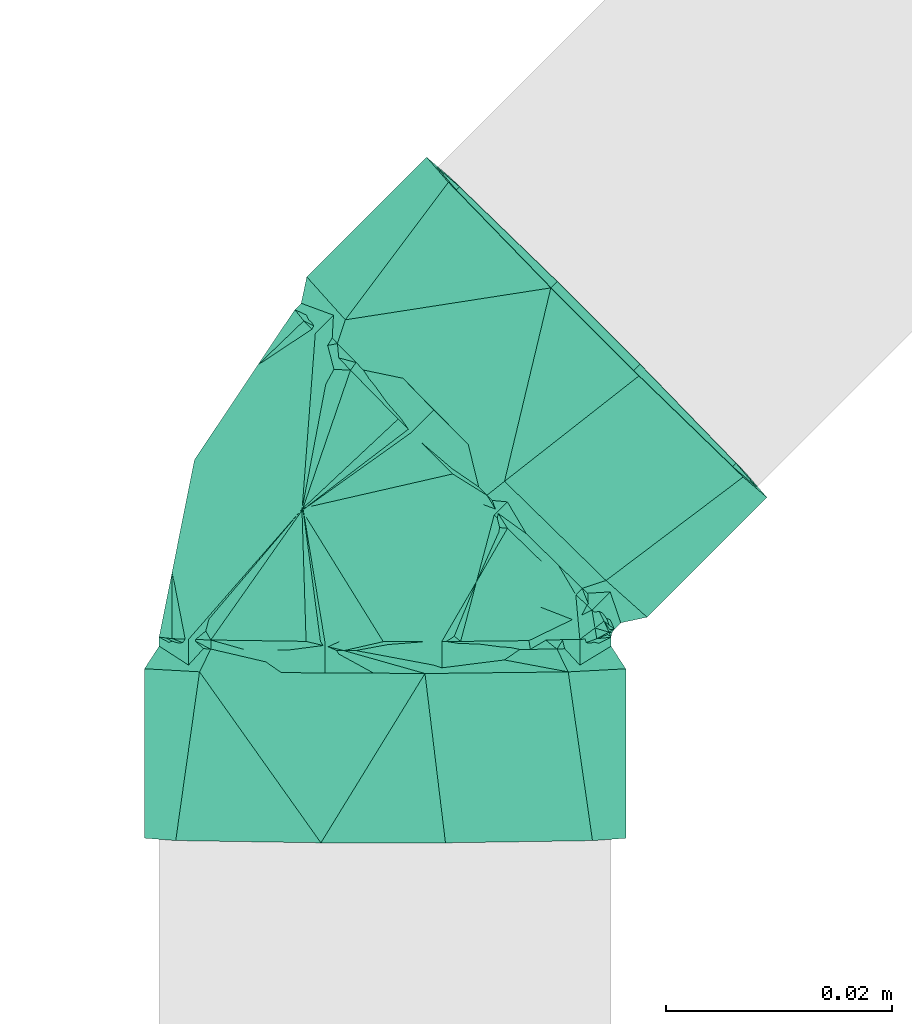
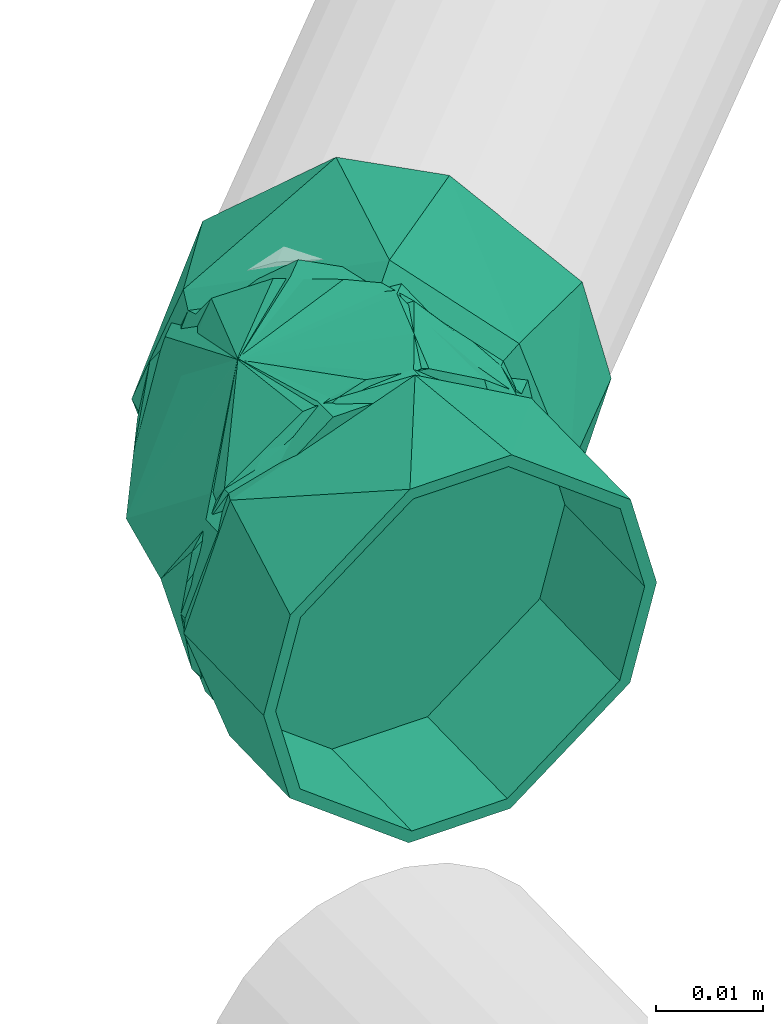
# One storey, part 330 of 589: 1 flow fitting.
"""IFC2X3 building model written with IfcOpenShell, lengths in millimetres."""

from ifc_helpers import new_model, entity, si_unit, converted_unit, derived_unit, direction, frame, origin, place, context, subcontext, project, spatial, faceted_brep, source, transform, mapped, material, type_object, type_shapes, element, save


model = new_model("IFC2X3")

# Units and contexts
model_context = context("Model", 3, precision=0.01, world=origin(), true_north=direction((6.123031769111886e-17, 1.0)))
body_context = subcontext(model_context, "Body", "Model", "MODEL_VIEW")
ifc_project = project(units=[si_unit("LENGTHUNIT", "METRE", prefix="MILLI"), si_unit("AREAUNIT", "SQUARE_METRE"), si_unit("VOLUMEUNIT", "CUBIC_METRE"), converted_unit("PLANEANGLEUNIT", "DEGREE", entity("IfcRatioMeasure", 0.017453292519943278), si_unit("PLANEANGLEUNIT", "RADIAN"), dimensions=[0, 0, 0, 0, 0, 0, 0]), si_unit("MASSUNIT", "GRAM", prefix="KILO"), derived_unit("MASSDENSITYUNIT", [(si_unit("MASSUNIT", "GRAM", prefix="KILO"), 1), (si_unit("LENGTHUNIT", "METRE"), -3)]), derived_unit("IONCONCENTRATIONUNIT", [(si_unit("MASSUNIT", "GRAM", prefix="KILO"), 1), (si_unit("LENGTHUNIT", "METRE"), -3)]), derived_unit("MOMENTOFINERTIAUNIT", [(si_unit("LENGTHUNIT", "METRE"), 4)]), si_unit("TIMEUNIT", "SECOND"), si_unit("FREQUENCYUNIT", "HERTZ"), si_unit("THERMODYNAMICTEMPERATUREUNIT", "DEGREE_CELSIUS"), derived_unit("THERMALTRANSMITTANCEUNIT", [(si_unit("MASSUNIT", "GRAM", prefix="KILO"), 1), (si_unit("THERMODYNAMICTEMPERATUREUNIT", "KELVIN"), -1), (si_unit("TIMEUNIT", "SECOND"), -3)]), derived_unit("THERMALCONDUCTANCEUNIT", [(si_unit("MASSUNIT", "GRAM", prefix="KILO"), 1), (si_unit("THERMODYNAMICTEMPERATUREUNIT", "KELVIN"), -1), (si_unit("TIMEUNIT", "SECOND"), -3), (si_unit("LENGTHUNIT", "METRE"), 1)]), derived_unit("VOLUMETRICFLOWRATEUNIT", [(si_unit("LENGTHUNIT", "METRE"), 3), (si_unit("TIMEUNIT", "SECOND"), -1)]), derived_unit("MASSFLOWRATEUNIT", [(si_unit("MASSUNIT", "GRAM", prefix="KILO"), 1), (si_unit("TIMEUNIT", "SECOND"), -1)]), derived_unit("ROTATIONALFREQUENCYUNIT", [(si_unit("TIMEUNIT", "SECOND"), -1)]), si_unit("ELECTRICCURRENTUNIT", "AMPERE"), si_unit("ELECTRICVOLTAGEUNIT", "VOLT"), si_unit("POWERUNIT", "WATT"), si_unit("FORCEUNIT", "NEWTON", prefix="KILO"), si_unit("ILLUMINANCEUNIT", "LUX"), si_unit("LUMINOUSFLUXUNIT", "LUMEN"), si_unit("LUMINOUSINTENSITYUNIT", "CANDELA"), derived_unit("USERDEFINED", [(si_unit("MASSUNIT", "GRAM", prefix="KILO"), -1), (si_unit("LENGTHUNIT", "METRE"), -2), (si_unit("TIMEUNIT", "SECOND"), 3), (si_unit("LUMINOUSFLUXUNIT", "LUMEN"), 1)]), derived_unit("USERDEFINED", [(si_unit("MASSUNIT", "GRAM", prefix="KILO"), 1), (si_unit("TIMEUNIT", "SECOND"), -3), (si_unit("LENGTHUNIT", "METRE"), 3), (si_unit("ELECTRICCURRENTUNIT", "AMPERE"), -2)]), derived_unit("SOUNDPOWERUNIT", [(si_unit("MASSUNIT", "GRAM", prefix="KILO"), 1), (si_unit("TIMEUNIT", "SECOND"), -3), (si_unit("LENGTHUNIT", "METRE"), 2)]), derived_unit("SOUNDPRESSUREUNIT", [(si_unit("MASSUNIT", "GRAM", prefix="KILO"), 1), (si_unit("LENGTHUNIT", "METRE"), -1), (si_unit("TIMEUNIT", "SECOND"), -2)]), derived_unit("LINEARVELOCITYUNIT", [(si_unit("LENGTHUNIT", "METRE"), 1), (si_unit("TIMEUNIT", "SECOND"), -1)]), si_unit("PRESSUREUNIT", "PASCAL"), derived_unit("USERDEFINED", [(si_unit("MASSUNIT", "GRAM", prefix="KILO"), 1), (si_unit("LENGTHUNIT", "METRE"), -2), (si_unit("TIMEUNIT", "SECOND"), -2)]), derived_unit("LINEARFORCEUNIT", [(si_unit("MASSUNIT", "GRAM", prefix="KILO"), 1), (si_unit("TIMEUNIT", "SECOND"), -2)]), derived_unit("PLANARFORCEUNIT", [(si_unit("MASSUNIT", "GRAM", prefix="KILO"), 1), (si_unit("LENGTHUNIT", "METRE"), -1), (si_unit("TIMEUNIT", "SECOND"), -2)]), derived_unit("SPECIFICHEATCAPACITYUNIT", [(si_unit("THERMODYNAMICTEMPERATUREUNIT", "KELVIN"), -1), (si_unit("LENGTHUNIT", "METRE"), 2), (si_unit("TIMEUNIT", "SECOND"), -2)]), derived_unit("HEATINGVALUEUNIT", [(si_unit("LENGTHUNIT", "METRE"), 2), (si_unit("TIMEUNIT", "SECOND"), -2)]), derived_unit("VAPORPERMEABILITYUNIT", [(si_unit("LENGTHUNIT", "METRE"), -1), (si_unit("TIMEUNIT", "SECOND"), 1)]), derived_unit("DYNAMICVISCOSITYUNIT", [(si_unit("MASSUNIT", "GRAM", prefix="KILO"), 1), (si_unit("TIMEUNIT", "SECOND"), -1), (si_unit("LENGTHUNIT", "METRE"), -1)]), derived_unit("THERMALEXPANSIONCOEFFICIENTUNIT", [(si_unit("THERMODYNAMICTEMPERATUREUNIT", "KELVIN"), -1)]), derived_unit("MODULUSOFELASTICITYUNIT", [(si_unit("MASSUNIT", "GRAM", prefix="KILO"), 1), (si_unit("LENGTHUNIT", "METRE"), -1), (si_unit("TIMEUNIT", "SECOND"), -2)]), derived_unit("ISOTHERMALMOISTURECAPACITYUNIT", [(si_unit("LENGTHUNIT", "METRE"), 3), (si_unit("MASSUNIT", "GRAM", prefix="KILO"), -1)]), derived_unit("MOISTUREDIFFUSIVITYUNIT", [(si_unit("TIMEUNIT", "SECOND"), -1), (si_unit("LENGTHUNIT", "METRE"), 2)])], contexts=[model_context])

# Site, building, storey
site_placement = place(None, origin())
site = spatial("IfcSite", under=ifc_project, at=site_placement, Name="Default", CompositionType="ELEMENT")
building_placement = place(site_placement, origin())
building = spatial("IfcBuilding", under=site, at=building_placement, CompositionType="ELEMENT")
storey_placement = place(building_placement, frame((0.0, 0.0, 100.0)))
storey = spatial("IfcBuildingStorey", under=building, at=storey_placement, Name="TÉRREO", CompositionType="ELEMENT", Elevation=100.0)

# Flow fitting
ifc_material = material(Name="PVC Série Normal")
pipe_fitting_type = type_object("IfcPipeFittingType", Name="PVC Esgoto_Joelho 45_90_Rodrigo MEP:a. Série Normal", PredefinedType="NOTDEFINED", material=ifc_material)
shared_shape = source(origin(), body_context, "Body", "Brep", [
    faceted_brep([(20.291797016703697, -7.993282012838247, 0.0), (18.397234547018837, -6.098470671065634, 10.0), (9.810603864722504, 2.489287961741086, 19.318516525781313), (2.4905765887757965, 9.810276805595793, 19.318516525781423), (-6.0960540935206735, 18.39803543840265, 10.0), (-7.990616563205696, 20.29284678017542, 0.0), (-6.0960540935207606, 18.398035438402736, -10.0), (2.49057658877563, 9.81027680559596, -19.31851652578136), (9.810603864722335, 2.4892879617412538, -19.318516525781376), (18.397234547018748, -6.098470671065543, -10.0), (-6.010587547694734, 22.272615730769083, 0.0), (-4.116025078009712, 20.377804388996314, 10.0), (4.470605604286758, 11.790045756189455, 19.318516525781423), (11.790632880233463, 4.46905691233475, 19.318516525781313), (20.3772635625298, -4.118701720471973, 10.0), (22.271826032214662, -6.013513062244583, 0.0), (20.37726356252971, -4.11870172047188, -10.0), (11.790632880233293, 4.469056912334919, -19.318516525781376), (4.4706056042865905, 11.790045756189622, -19.31851652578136), (-4.116025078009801, 20.3778043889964, -10.0)], [[[0, 1, 2, 3, 4, 5, 6, 7, 8, 9]], [[10, 11, 12, 13, 14, 15, 16, 17, 18, 19]], [[0, 15, 14, 1]], [[1, 14, 13, 2]], [[13, 12, 3, 2]], [[3, 12, 11, 4]], [[4, 11, 10, 5]], [[5, 10, 19, 6]], [[6, 19, 18, 7]], [[18, 17, 8, 7]], [[8, 17, 16, 9]], [[9, 16, 15, 0]]]),
    faceted_brep([(-11.497676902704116, -17.320508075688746, -10.0), (-11.497676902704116, -20.0, 0.0), (-11.497676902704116, -17.320508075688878, 10.0), (-11.497676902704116, -5.176380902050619, 19.318516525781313), (-11.497676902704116, 5.1763809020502, 19.318516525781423), (-11.497676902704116, 17.320508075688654, 10.0), (-11.497676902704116, 20.0, 0.0), (-11.497676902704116, 17.320508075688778, -10.0), (-11.497676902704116, 5.17638090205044, -19.31851652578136), (-11.497676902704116, -5.176380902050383, -19.318516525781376), (-8.697676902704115, 5.17638090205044, -19.31851652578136), (-8.697676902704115, 17.320508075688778, -10.0), (-8.697676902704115, 20.0, 0.0), (-8.697676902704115, 17.320508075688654, 10.0), (-8.697676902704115, 5.1763809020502, 19.318516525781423), (-8.697676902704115, -5.176380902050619, 19.318516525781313), (-8.697676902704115, -17.320508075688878, 10.0), (-8.697676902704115, -20.0, 0.0), (-8.697676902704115, -17.320508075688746, -10.0), (-8.697676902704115, -5.176380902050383, -19.318516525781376)], [[[0, 1, 2, 3, 4, 5, 6, 7, 8, 9]], [[10, 11, 12, 13, 14, 15, 16, 17, 18, 19]], [[1, 17, 16, 2]], [[2, 16, 15, 3]], [[15, 14, 4, 3]], [[4, 14, 13, 5]], [[5, 13, 12, 6]], [[6, 12, 11, 7]], [[7, 11, 10, 8]], [[10, 19, 9, 8]], [[9, 19, 18, 0]], [[0, 18, 17, 1]]]),
    faceted_brep([(-26.49767690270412, -5.512845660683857, -20.574220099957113), (-26.49767690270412, -5.176380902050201, -19.318516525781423), (-26.49767690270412, 5.176380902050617, -19.318516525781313), (-26.49767690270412, -18.44634110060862, -10.649999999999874), (-26.49767690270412, 5.512845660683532, -20.574220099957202), (-26.49767690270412, -17.320508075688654, -10.0), (-26.49767690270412, -20.0, 0.0), (-26.49767690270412, -21.3, 0.0), (-26.49767690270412, -17.32050807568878, 10.0), (-26.49767690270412, -18.446341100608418, 10.65000000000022), (-26.49767690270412, -5.176380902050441, 19.31851652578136), (-26.49767690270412, -5.512845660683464, 20.574220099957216), (-26.49767690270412, 5.176380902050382, 19.318516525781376), (-26.49767690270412, 5.512845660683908, 20.5742200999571), (-26.49767690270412, 17.320508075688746, 10.0), (-26.49767690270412, 18.446341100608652, 10.649999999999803), (-26.49767690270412, 21.3, 0.0), (-26.49767690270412, 20.0, 0.0), (-26.49767690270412, 18.44634110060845, -10.650000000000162), (-26.49767690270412, 17.320508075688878, -10.0), (-11.497676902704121, 17.320508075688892, -10.0), (-11.497676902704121, 20.0, 0.0), (-11.497676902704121, 5.17638090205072, -19.318516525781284), (-11.497676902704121, -5.176380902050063, -19.31851652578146), (-11.497676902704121, -17.320508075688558, -10.0), (-11.497676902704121, -20.0, 0.0), (-11.497676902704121, -17.320508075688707, 10.0), (-11.497676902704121, -5.176380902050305, 19.318516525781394), (-11.497676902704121, 5.176380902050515, 19.318516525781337), (-11.497676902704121, 17.320508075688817, 10.0), (-11.497676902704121, 21.3, 0.0), (-11.497676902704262, 16.315983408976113, 13.692285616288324), (-11.497676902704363, 3.696367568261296, 20.976817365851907), (-11.497676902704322, -16.31941754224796, 13.688192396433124), (-11.497676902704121, -21.3, 0.0), (-11.497676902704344, -6.311524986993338, 17.3325048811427), (-11.49767690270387, -16.319417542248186, -13.688192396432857), (-11.497676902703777, -3.7016293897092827, -20.975889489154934), (-11.497676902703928, 16.315983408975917, -13.692285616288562), (-11.497676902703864, 6.307177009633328, -17.334087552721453), (-9.497676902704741, -3.470767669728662, -19.69654212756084), (-9.49767690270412, 20.0, 0.0), (-9.497676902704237, 18.830849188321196, -3.2131907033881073), (-9.497676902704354, 17.66169837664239, -6.426381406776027), (-9.497676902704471, 16.4925475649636, -9.639572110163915), (-9.497676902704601, 15.323396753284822, -12.852762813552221), (-9.497676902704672, 5.9263145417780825, -16.27465247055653), (-9.497676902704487, -15.320172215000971, -12.856606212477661), (-9.49767690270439, -16.490129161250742, -9.642454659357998), (-9.497676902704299, -17.660086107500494, -6.428303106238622), (-9.49767690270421, -18.830043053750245, -3.214151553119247), (-9.497676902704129, -20.0, 0.0), (-9.497676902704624, 10.624855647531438, -14.563707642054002), (-9.497676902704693, 1.2277734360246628, -17.98559729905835), (-9.497676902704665, -6.433118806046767, -17.98655814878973), (-9.497676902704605, -9.395469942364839, -16.276574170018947), (-9.49767690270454, -12.357821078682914, -14.566590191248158), (-9.497676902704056, -18.830043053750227, 3.2141515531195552), (-9.497676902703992, -17.660086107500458, 6.428303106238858), (-9.497676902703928, -16.490129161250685, 9.64245465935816), (-9.497676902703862, -15.3201722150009, 12.856606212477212), (-9.497676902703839, -12.970687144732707, 13.711489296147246), (-9.497676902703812, -10.621202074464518, 14.566372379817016), (-9.497676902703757, -5.922231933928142, 16.27613854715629), (-9.497676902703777, 15.323396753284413, 12.852762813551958), (-9.497676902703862, 16.49254756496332, 9.63957211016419), (-9.49767690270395, 17.661698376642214, 6.426381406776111), (-9.497676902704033, 18.830849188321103, 3.213190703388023), (-9.497676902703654, 3.47570834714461, 19.695670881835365), (-9.49767690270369, 6.43763044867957, 17.984943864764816), (-9.497676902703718, 9.399552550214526, 16.274216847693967), (-9.497676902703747, 12.361474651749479, 14.563489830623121), (-9.497676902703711, -1.2232617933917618, 17.985904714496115), (-8.697676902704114, 17.057389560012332, 9.848048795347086), (-8.697676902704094, 6.840479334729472, 18.793824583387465), (-8.697676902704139, -9.848049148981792, 17.057385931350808), (-8.697676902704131, -3.420183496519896, 19.396932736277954), (-8.697676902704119, 0.0, 20.0), (-8.697676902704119, 19.396930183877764, 3.4201905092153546), (-8.697676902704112, 15.320918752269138, 12.855716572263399), (-8.697676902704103, 11.080699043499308, 15.82477057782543), (-8.697676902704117, 18.793860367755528, 6.840381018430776), (-8.697676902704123, -18.793848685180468, 6.840413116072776), (-8.697676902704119, 20.0, 0.0), (-8.697676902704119, -20.0, 0.0), (-8.697676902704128, -15.824789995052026, 11.080659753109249), (-8.697676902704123, -19.156924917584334, 4.781308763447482), (-8.697676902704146, -6.84036699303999, 18.793865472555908), (-8.69767690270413, -14.34026064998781, 13.200783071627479), (-8.697676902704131, -12.855731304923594, 15.320906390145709), (-8.697676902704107, 3.420239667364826, 19.396912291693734), (-8.697676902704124, -17.057361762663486, -9.848091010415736), (-8.697676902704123, -18.793848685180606, -6.840413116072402), (-8.697676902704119, 19.39693018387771, -3.4201905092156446), (-8.697676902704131, -3.420183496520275, -19.396932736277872), (-8.697676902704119, 0.0, -20.0), (-8.69767690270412, -19.396924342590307, -3.4202065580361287), (-8.697676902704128, -15.320874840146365, -12.85576890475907), (-8.697676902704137, -11.080620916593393, -15.824817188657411), (-8.697676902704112, 15.824828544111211, -11.080616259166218), (-8.697676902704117, 18.79386036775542, -6.84038101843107), (-8.697676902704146, -6.840366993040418, -18.79386547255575), (-8.697676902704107, 12.855796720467, -15.320851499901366), (-8.697676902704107, 3.420239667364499, -19.396912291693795), (-8.697676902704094, 6.840479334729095, -18.7938245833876), (-8.697676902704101, 9.848138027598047, -17.05733804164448), (18.39723454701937, -6.098470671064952, -10.0), (9.810603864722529, 2.489287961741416, -19.318516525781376), (2.490576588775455, 9.81027680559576, -19.31851652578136), (-6.0960540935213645, 18.39803543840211, -10.0), (-7.990616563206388, 20.292846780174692, 0.0), (-6.096054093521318, 18.39803543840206, 10.0), (2.4905765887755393, 9.810276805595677, 19.31851652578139), (9.810603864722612, 2.489287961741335, 19.318516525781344), (18.39723454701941, -6.098470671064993, 10.0), (20.29179701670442, -7.993282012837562, 0.0), (-2.9119619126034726, -18.849248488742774, 0.0), (15.386759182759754, -11.270374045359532, 0.0), (2.8666055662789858, -7.210896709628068, 17.605576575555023), (6.991099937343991, -16.87957604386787, 0.0), (-8.315023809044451, 20.076107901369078, 0.0), (2.8666055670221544, -7.2108967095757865, -17.605576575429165)], [[[0, 1, 2]], [[1, 0, 3]], [[2, 4, 0]], [[3, 5, 1]], [[3, 6, 5]], [[6, 3, 7]], [[8, 6, 7]], [[8, 7, 9]], [[9, 10, 8]], [[9, 11, 10]], [[10, 11, 12]], [[13, 12, 11]], [[13, 14, 12]], [[14, 13, 15]], [[16, 14, 15]], [[17, 14, 16]], [[18, 17, 16]], [[18, 19, 17]], [[19, 18, 4]], [[4, 2, 19]], [[20, 21, 17, 19]], [[22, 20, 19, 2]], [[2, 1, 23, 22]], [[24, 23, 1, 5]], [[25, 24, 5, 6]], [[26, 25, 6, 8]], [[27, 26, 8, 10]], [[10, 12, 28, 27]], [[29, 28, 12, 14]], [[21, 29, 14, 17]], [[16, 15, 30]], [[15, 31, 30]], [[31, 15, 13]], [[31, 13, 32]], [[33, 11, 9]], [[34, 9, 7]], [[11, 33, 35, 32]], [[33, 9, 34]], [[11, 32, 13]], [[7, 3, 34]], [[3, 36, 34]], [[36, 3, 0]], [[36, 0, 37]], [[38, 4, 18]], [[30, 18, 16]], [[4, 38, 39, 37]], [[38, 18, 30]], [[4, 37, 0]], [[28, 29, 21, 20, 22, 23, 24, 25, 26, 27]], [[39, 40, 37]], [[30, 41, 42, 43, 44, 45]], [[30, 45, 38]], [[38, 46, 39]], [[36, 47, 48, 49, 50, 51]], [[38, 45, 52, 46]], [[36, 37, 47]], [[34, 36, 51]], [[39, 46, 53, 40]], [[37, 40, 54, 55, 56, 47]], [[33, 51, 57, 58, 59, 60]], [[33, 34, 51]], [[60, 35, 33]], [[35, 60, 61, 62, 63]], [[63, 32, 35]], [[30, 64, 65, 66, 67, 41]], [[31, 68, 69, 70, 71, 64]], [[31, 64, 30]], [[32, 63, 72, 68]], [[68, 31, 32]], [[64, 73, 65]], [[74, 70, 69, 68]], [[62, 75, 63]], [[76, 77, 72]], [[78, 67, 66]], [[79, 71, 80]], [[65, 81, 66]], [[64, 79, 73]], [[82, 59, 58]], [[83, 41, 67]], [[84, 57, 51]], [[60, 59, 85]], [[83, 67, 78]], [[86, 82, 58]], [[81, 65, 73]], [[63, 87, 76]], [[63, 76, 72]], [[63, 75, 87]], [[82, 85, 59]], [[68, 72, 77]], [[66, 81, 78]], [[61, 88, 89]], [[89, 62, 61]], [[68, 77, 90, 74]], [[84, 86, 57]], [[86, 58, 57]], [[89, 75, 62]], [[61, 60, 88]], [[60, 85, 88]], [[74, 80, 70]], [[71, 79, 64]], [[71, 70, 80]], [[49, 91, 92]], [[93, 43, 42]], [[54, 40, 94]], [[40, 53, 95]], [[51, 96, 84]], [[97, 56, 98]], [[48, 97, 91]], [[91, 49, 48]], [[99, 44, 100]], [[101, 55, 54]], [[96, 51, 50]], [[83, 42, 41]], [[45, 99, 102]], [[49, 92, 50]], [[42, 83, 93]], [[48, 47, 97]], [[53, 103, 95]], [[104, 103, 46]], [[52, 105, 46]], [[44, 99, 45]], [[46, 103, 53]], [[50, 92, 96]], [[105, 52, 102]], [[44, 43, 100]], [[40, 95, 94]], [[100, 43, 93]], [[102, 52, 45]], [[105, 104, 46]], [[101, 98, 55]], [[54, 94, 101]], [[56, 97, 47]], [[56, 55, 98]], [[106, 107, 108, 109, 110, 111, 112, 113, 114, 115]], [[116, 89, 88, 85, 82]], [[117, 118, 119]], [[118, 89, 119]], [[118, 77, 76, 87]], [[116, 82, 86, 84]], [[118, 74, 90, 77]], [[111, 81, 73, 79]], [[112, 79, 80, 74]], [[118, 87, 75, 89]], [[89, 116, 119]], [[74, 118, 112]], [[118, 114, 113]], [[118, 117, 114]], [[120, 83, 78, 81]], [[81, 110, 120]], [[110, 81, 111]], [[117, 115, 114]], [[112, 111, 79]], [[112, 118, 113]], [[104, 108, 121]], [[116, 92, 91, 97]], [[109, 102, 99, 100]], [[106, 121, 107]], [[97, 121, 119]], [[108, 104, 105, 102]], [[116, 84, 96, 92]], [[97, 119, 116]], [[121, 97, 98, 101]], [[121, 95, 103, 104]], [[110, 100, 120]], [[109, 100, 110]], [[108, 102, 109]], [[121, 101, 94, 95]], [[108, 107, 121]], [[119, 121, 117]], [[106, 117, 121]], [[106, 115, 117]], [[120, 100, 93, 83]]]),
    faceted_brep([(-4.116025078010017, 20.37780438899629, -10.0), (-6.010587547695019, 22.272615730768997, 0.0), (-4.116025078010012, 20.37780438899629, 10.0), (4.470605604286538, 11.790045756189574, 19.318516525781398), (11.790632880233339, 4.469056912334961, 19.318516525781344), (20.37726356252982, -4.11870172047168, 10.0), (22.27182603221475, -6.013513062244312, 0.0), (20.377263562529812, -4.118701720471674, -10.0), (11.79063288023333, 4.469056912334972, -19.318516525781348), (4.470605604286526, 11.790045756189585, -19.318516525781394), (23.191004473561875, -6.932812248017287, 0.0), (20.85751959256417, -7.4276337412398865, 0.0), (20.03085942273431, -6.600864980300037, -3.213190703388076), (19.204199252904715, -5.774096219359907, -6.426381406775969), (18.377539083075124, -4.947327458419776, -9.639572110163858), (17.55087891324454, -4.120558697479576, -12.85276281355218), (3.6679902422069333, 12.592766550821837, -17.332504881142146), (10.744174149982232, 5.51565310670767, -20.976817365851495), (4.262270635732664, 9.169795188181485, -19.696542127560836), (19.667004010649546, -3.408348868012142, -13.69228561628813), (-4.115973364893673, 17.54913976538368, -12.856606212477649), (-3.408193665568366, 19.669879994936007, -13.688192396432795), (2.167709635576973, 11.264631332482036, -17.986558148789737), (0.07314863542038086, 13.359467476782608, -16.27657417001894), (-2.021412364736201, 15.45430362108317, -14.566590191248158), (10.906574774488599, 2.5246182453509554, -16.274652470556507), (-4.943203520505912, 18.37647858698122, -9.642454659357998), (-5.7704336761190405, 19.20381740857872, -6.428303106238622), (-6.597663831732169, 20.031156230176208, -3.2141515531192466), (-7.424893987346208, 20.858495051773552, 0.0), (-6.92976598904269, 23.191914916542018, 0.0), (14.22872684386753, -0.7979702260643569, -14.563707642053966), (7.58442270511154, 5.8472067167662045, -17.98559729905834), (-3.408193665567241, 19.669879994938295, 13.688192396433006), (-6.597663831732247, 20.031156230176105, 3.2141515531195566), (-5.770433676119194, 19.20381740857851, 6.428303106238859), (-4.943203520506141, 18.376478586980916, 9.64245465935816), (-4.115973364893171, 17.549139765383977, 12.856606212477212), (12.59017395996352, 3.6694108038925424, 17.334087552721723), (5.513343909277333, 10.747170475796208, 20.975889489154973), (9.173848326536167, 4.257572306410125, 19.695670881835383), (17.55087891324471, -4.120558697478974, 12.852762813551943), (19.66700401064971, -3.4083488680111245, 13.692285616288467), (11.268105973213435, 2.1630395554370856, 17.984943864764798), (13.362363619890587, 0.06850680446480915, 16.274216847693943), (15.456621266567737, -2.0260259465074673, 14.563489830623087), (2.5289374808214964, 10.903356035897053, 16.276138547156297), (18.377539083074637, -4.94732745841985, 9.639572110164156), (19.20419925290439, -5.774096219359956, 6.426381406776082), (20.030859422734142, -6.600864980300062, 3.213190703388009), (-2.4547456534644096, 15.887693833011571, 13.711489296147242), (-0.793517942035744, 14.22624790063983, 14.566372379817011), (5.851392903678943, 7.580464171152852, 17.985904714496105), (14.840003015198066, 22.63388298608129, -20.574220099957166), (15.077903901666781, 22.395950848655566, -19.318516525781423), (22.39793117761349, 15.074962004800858, -19.318516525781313), (5.69524133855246, 31.779845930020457, -10.649999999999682), (22.635832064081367, 14.837029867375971, -20.574220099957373), (6.491273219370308, 30.983709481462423, -10.0), (4.596710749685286, 32.8785208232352, 0.0), (3.677532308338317, 33.797820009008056, 0.0), (6.491273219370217, 30.983709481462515, 10.0), (5.6952413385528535, 31.77984593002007, 10.650000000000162), (15.077903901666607, 22.39595084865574, 19.31851652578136), (14.840003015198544, 22.633882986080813, 20.5742200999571), (22.397931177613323, 15.074962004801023, 19.318516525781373), (22.635832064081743, 14.837029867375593, 20.57422009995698), (30.984561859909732, 6.4872033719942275, 10.0), (31.78059374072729, 5.691066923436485, 10.649999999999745), (33.798302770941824, 3.6730928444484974, 0.0), (32.87912432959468, 4.592392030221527, 0.0), (31.780593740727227, 5.691066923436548, -10.650000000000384), (30.984561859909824, 6.487203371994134, -10.0), (18.211174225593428, -5.912385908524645, 9.848091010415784), (10.98714243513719, 1.3125948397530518, 18.793865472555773), (-0.812637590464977, 13.11392489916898, 17.05733804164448), (3.7322744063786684, 8.568415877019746, 19.396912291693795), (6.15059022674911, 6.149782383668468, 20.0), (19.865386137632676, -7.5668151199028, 3.420206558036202), (16.983373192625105, -4.684423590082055, 12.8557689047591), (13.98525781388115, -1.6859143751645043, 15.824817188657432), (19.438975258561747, -7.1403482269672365, 6.84041311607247), (-7.13780306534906, 19.43992125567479, 6.840381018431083), (20.2917970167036, -7.993282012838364, 0.0), (-7.9906165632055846, 20.29284678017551, 0.0), (-5.03851841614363, 17.34036084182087, 11.080616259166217), (-7.3945144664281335, 19.696666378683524, 4.781309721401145), (1.3139585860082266, 10.987049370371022, 18.79382458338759), (-3.98887609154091, 16.29058063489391, 13.20073387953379), (-2.939233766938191, 15.240800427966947, 15.320851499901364), (8.568866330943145, 3.7311886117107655, 19.39693273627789), (-5.91001342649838, 18.21197033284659, -9.848048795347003), (-7.137803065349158, 19.439921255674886, -6.840381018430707), (19.865386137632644, -7.566815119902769, -3.420206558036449), (3.7322744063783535, 8.568415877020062, -19.396912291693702), (6.150590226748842, 6.1497823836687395, -20.0), (-7.56420981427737, 19.866384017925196, -3.4201905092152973), (-4.682223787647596, 16.984019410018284, -12.85571657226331), (-1.6841326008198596, 13.985534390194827, -15.824770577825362), (17.33967161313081, -5.040768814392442, -11.080659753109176), (19.43897525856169, -7.1403482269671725, -6.840413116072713), (1.3139585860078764, 10.987049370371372, -18.793824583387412), (15.240367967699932, -2.941189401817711, -15.32090639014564), (8.568866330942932, 3.731188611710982, -19.396932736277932), (10.987142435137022, 1.312594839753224, -18.79386547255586), (13.113755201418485, -0.814297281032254, -17.05738593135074), (-8.69767690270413, 5.176380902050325, 19.31851652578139), (-8.697676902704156, 17.320508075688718, 10.0), (-8.697676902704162, 20.0, 0.0), (-8.697676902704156, 17.320508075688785, -10.0), (-8.69767690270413, 5.176380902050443, -19.31851652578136), (-8.697676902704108, -5.176380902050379, -19.318516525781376), (-8.697676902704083, -17.320508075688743, -10.0), (-8.697676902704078, -20.0, 0.0), (-8.697676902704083, -17.32050807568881, 10.0), (-8.697676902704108, -5.176380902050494, 19.318516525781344), (6.991099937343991, -16.87957604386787, 0.0), (3.071408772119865, -7.126073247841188, 17.60557611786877), (-2.9119619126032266, -18.849248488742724, 0.0), (-8.315023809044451, 20.07610790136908, 0.0), (15.386759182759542, -11.270374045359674, 0.0), (3.0714087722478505, -7.126073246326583, -17.60557611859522)], [[[0, 1, 2, 3, 4, 5, 6, 7, 8, 9]], [[10, 11, 12, 13, 14, 15]], [[16, 17, 18]], [[19, 10, 15]], [[16, 20, 21]], [[16, 18, 22, 23, 24, 20]], [[19, 25, 17]], [[21, 20, 26, 27, 28, 29]], [[21, 29, 30]], [[19, 15, 31, 25]], [[17, 25, 32, 18]], [[33, 29, 34, 35, 36, 37]], [[38, 39, 40]], [[33, 30, 29]], [[38, 41, 42]], [[38, 40, 43, 44, 45, 41]], [[33, 46, 39]], [[10, 41, 47, 48, 49, 11]], [[42, 41, 10]], [[33, 37, 50, 51, 46]], [[39, 46, 52, 40]], [[53, 54, 55]], [[54, 53, 56]], [[55, 57, 53]], [[56, 58, 54]], [[56, 59, 58]], [[59, 56, 60]], [[61, 59, 60]], [[61, 60, 62]], [[62, 63, 61]], [[62, 64, 63]], [[63, 64, 65]], [[66, 65, 64]], [[66, 67, 65]], [[67, 66, 68]], [[69, 67, 68]], [[70, 67, 69]], [[71, 70, 69]], [[71, 72, 70]], [[72, 71, 57]], [[57, 55, 72]], [[69, 68, 10]], [[68, 42, 10]], [[42, 68, 66]], [[66, 39, 38, 42]], [[33, 64, 62]], [[30, 62, 60]], [[64, 33, 39]], [[33, 62, 30]], [[64, 39, 66]], [[60, 56, 30]], [[56, 21, 30]], [[21, 56, 53]], [[53, 17, 16, 21]], [[19, 57, 71]], [[10, 71, 69]], [[57, 19, 17]], [[19, 71, 10]], [[57, 17, 53]], [[7, 6, 70, 72]], [[8, 7, 72, 55]], [[55, 54, 9, 8]], [[0, 9, 54, 58]], [[1, 0, 58, 59]], [[2, 1, 59, 61]], [[3, 2, 61, 63]], [[63, 65, 4, 3]], [[5, 4, 65, 67]], [[6, 5, 67, 70]], [[41, 73, 47]], [[74, 44, 43, 40]], [[51, 75, 46]], [[76, 77, 52]], [[78, 49, 48]], [[79, 45, 80]], [[47, 81, 48]], [[41, 79, 73]], [[82, 36, 35]], [[83, 11, 49]], [[84, 34, 29]], [[37, 36, 85]], [[83, 49, 78]], [[86, 82, 35]], [[81, 47, 73]], [[46, 87, 76]], [[46, 76, 52]], [[46, 75, 87]], [[82, 85, 36]], [[40, 52, 77]], [[48, 81, 78]], [[50, 88, 89]], [[89, 51, 50]], [[40, 77, 90, 74]], [[84, 86, 34]], [[86, 35, 34]], [[89, 75, 51]], [[50, 37, 88]], [[37, 85, 88]], [[74, 80, 44]], [[45, 79, 41]], [[45, 44, 80]], [[27, 91, 92]], [[93, 13, 12]], [[22, 18, 94]], [[18, 32, 95]], [[29, 96, 84]], [[97, 24, 98]], [[26, 97, 91]], [[91, 27, 26]], [[99, 14, 100]], [[101, 23, 22]], [[96, 29, 28]], [[83, 12, 11]], [[15, 99, 102]], [[27, 92, 28]], [[12, 83, 93]], [[26, 20, 97]], [[32, 103, 95]], [[104, 103, 25]], [[31, 105, 25]], [[14, 99, 15]], [[25, 103, 32]], [[28, 92, 96]], [[105, 31, 102]], [[14, 13, 100]], [[18, 95, 94]], [[100, 13, 93]], [[102, 31, 15]], [[105, 104, 25]], [[101, 98, 23]], [[22, 94, 101]], [[24, 97, 20]], [[24, 23, 98]], [[106, 107, 108, 109, 110, 111, 112, 113, 114, 115]], [[116, 117, 118]], [[115, 117, 106]], [[118, 117, 114]], [[107, 106, 89]], [[82, 119, 108]], [[108, 107, 82]], [[114, 113, 118]], [[117, 74, 90, 77]], [[79, 117, 116]], [[117, 79, 80, 74]], [[79, 116, 120]], [[117, 77, 76, 87]], [[119, 82, 86, 84]], [[120, 81, 73, 79]], [[107, 89, 88, 85, 82]], [[106, 87, 75, 89]], [[114, 117, 115]], [[117, 87, 106]], [[120, 83, 78, 81]], [[121, 110, 101]], [[109, 108, 92]], [[118, 113, 112]], [[109, 97, 110]], [[121, 118, 112]], [[121, 112, 111]], [[111, 110, 121]], [[92, 108, 119]], [[109, 92, 91, 97]], [[110, 97, 98, 101]], [[121, 104, 105, 102]], [[118, 121, 116]], [[121, 101, 94, 95]], [[102, 116, 121]], [[120, 100, 93, 83]], [[116, 102, 120]], [[120, 102, 99, 100]], [[121, 95, 103, 104]], [[119, 84, 96, 92]]]),
])
type_shapes(pipe_fitting_type, [shared_shape])
flow_fitting_placement = place(storey_placement, frame((-410.3258212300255, -6741.823652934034, -180.58469838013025), z_axis=(-0.008283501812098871, -0.019995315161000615, 0.9997657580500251), x_axis=(-0.7070360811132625, -0.7068947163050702, -0.01999600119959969)))
element("IfcFlowFitting", 1, at=flow_fitting_placement, inside=storey, type_object=pipe_fitting_type, material=ifc_material, Name="PVC Esgoto_Joelho 45_90_Rodrigo MEP:a. Série Normal", ObjectType="PVC Esgoto_Joelho 45_90_Rodrigo MEP:a. Série Normal", context=body_context, shape_type="MappedRepresentation", body=[
    mapped(shared_shape, transform((0.0, 0.0, 0.0), scale=1.0)),
])

save(model, "model.ifc")
